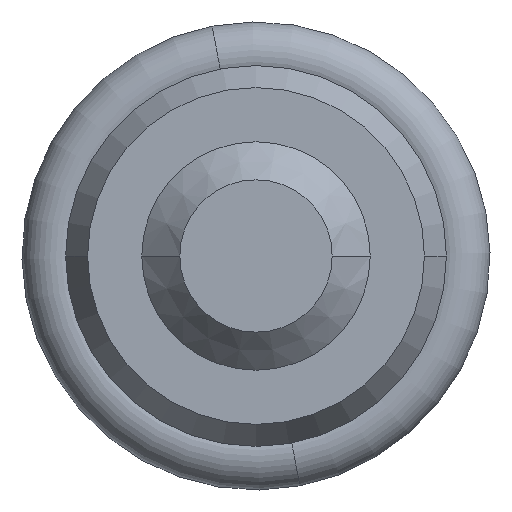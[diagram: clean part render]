
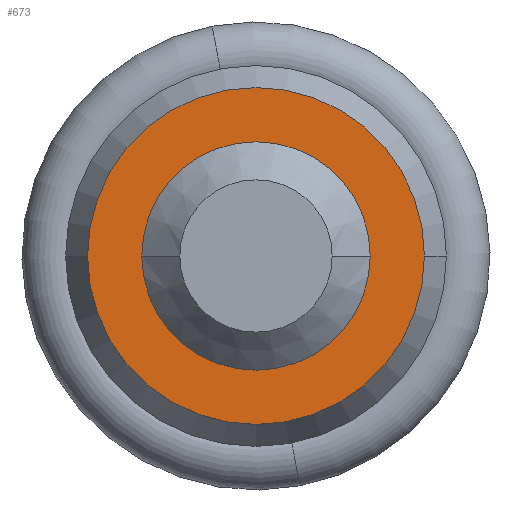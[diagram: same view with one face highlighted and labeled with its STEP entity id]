
A CAD part, front view. The second image highlights one B-rep face of the part: STEP entity #673.
In plain terms, the highlighted planar face has unit normal (0, -1, 0).
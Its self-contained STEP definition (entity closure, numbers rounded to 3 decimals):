
#38 = VERTEX_POINT ( 'NONE', #321 ) ;
#49 = CIRCLE ( 'NONE', #869, 4.423 ) ;
#68 = DIRECTION ( 'NONE',  ( 0., -1., 0. ) ) ;
#73 = CIRCLE ( 'NONE', #659, 3. ) ;
#90 = DIRECTION ( 'NONE',  ( 0., -1., 0. ) ) ;
#142 = FACE_OUTER_BOUND ( 'NONE', #669, .T. ) ;
#144 = EDGE_LOOP ( 'NONE', ( #1016, #1104 ) ) ;
#215 = ORIENTED_EDGE ( 'NONE', *, *, #1047, .T. ) ;
#221 = CARTESIAN_POINT ( 'NONE',  ( -3., -23., 0. ) ) ;
#253 = ORIENTED_EDGE ( 'NONE', *, *, #782, .T. ) ;
#321 = CARTESIAN_POINT ( 'NONE',  ( 4.423, -23., 0. ) ) ;
#328 = VERTEX_POINT ( 'NONE', #620 ) ;
#398 = DIRECTION ( 'NONE',  ( -1., 0., 0. ) ) ;
#413 = DIRECTION ( 'NONE',  ( 0., 1., 0. ) ) ;
#418 = CARTESIAN_POINT ( 'NONE',  ( 0., -23., 0. ) ) ;
#425 = CARTESIAN_POINT ( 'NONE',  ( 0., -23., 0. ) ) ;
#470 = DIRECTION ( 'NONE',  ( 0., 1., 0. ) ) ;
#567 = CARTESIAN_POINT ( 'NONE',  ( 3., -23., 0. ) ) ;
#579 = FACE_BOUND ( 'NONE', #144, .T. ) ;
#598 = DIRECTION ( 'NONE',  ( 0., 1., 0. ) ) ;
#620 = CARTESIAN_POINT ( 'NONE',  ( -4.423, -23., 0. ) ) ;
#659 = AXIS2_PLACEMENT_3D ( 'NONE', #690, #598, #872 ) ;
#669 = EDGE_LOOP ( 'NONE', ( #215, #253 ) ) ;
#673 = ADVANCED_FACE ( 'Faccia1', ( #142, #579 ), #908, .F. ) ;
#677 = CIRCLE ( 'NONE', #985, 4.423 ) ;
#690 = CARTESIAN_POINT ( 'NONE',  ( 0., -23., 0. ) ) ;
#700 = VERTEX_POINT ( 'NONE', #221 ) ;
#782 = EDGE_CURVE ( 'NONE', #38, #328, #49, .T. ) ;
#819 = DIRECTION ( 'NONE',  ( -1., 0., 0. ) ) ;
#820 = VERTEX_POINT ( 'NONE', #1008 ) ;
#832 = AXIS2_PLACEMENT_3D ( 'NONE', #425, #413, #941 ) ;
#869 = AXIS2_PLACEMENT_3D ( 'NONE', #919, #68, #398 ) ;
#872 = DIRECTION ( 'NONE',  ( -1., 0., 0. ) ) ;
#886 = CIRCLE ( 'NONE', #832, 3. ) ;
#908 = PLANE ( 'NONE',  #928 ) ;
#919 = CARTESIAN_POINT ( 'NONE',  ( 0., -23., 0. ) ) ;
#928 = AXIS2_PLACEMENT_3D ( 'NONE', #567, #470, #819 ) ;
#941 = DIRECTION ( 'NONE',  ( -1., 0., 0. ) ) ;
#957 = EDGE_CURVE ( 'NONE', #820, #700, #73, .T. ) ;
#985 = AXIS2_PLACEMENT_3D ( 'NONE', #418, #90, #1022 ) ;
#1008 = CARTESIAN_POINT ( 'NONE',  ( 3., -23., 0. ) ) ;
#1016 = ORIENTED_EDGE ( 'NONE', *, *, #1027, .T. ) ;
#1022 = DIRECTION ( 'NONE',  ( -1., 0., 0. ) ) ;
#1027 = EDGE_CURVE ( 'NONE', #700, #820, #886, .T. ) ;
#1047 = EDGE_CURVE ( 'NONE', #328, #38, #677, .T. ) ;
#1104 = ORIENTED_EDGE ( 'NONE', *, *, #957, .T. ) ;
